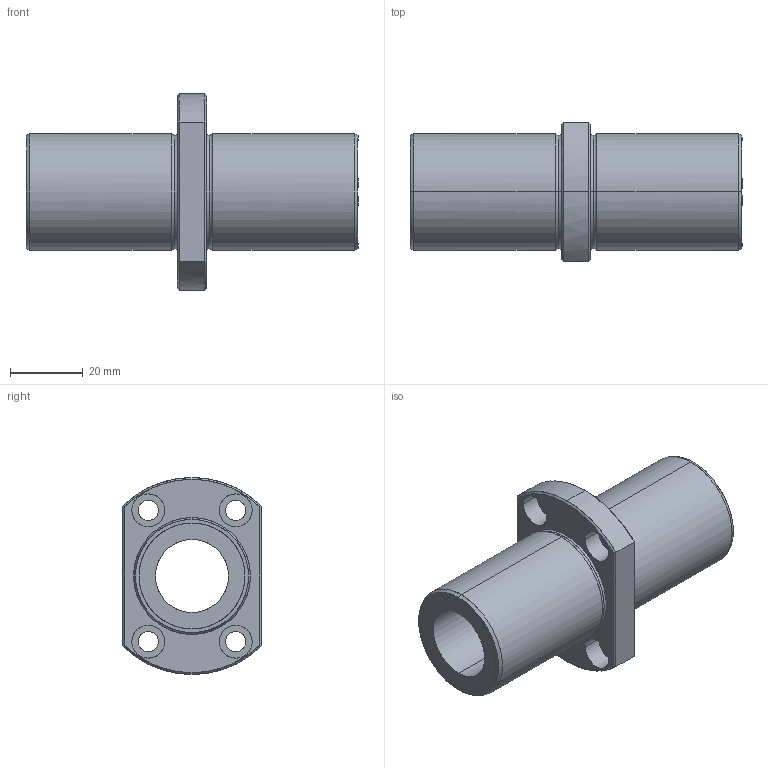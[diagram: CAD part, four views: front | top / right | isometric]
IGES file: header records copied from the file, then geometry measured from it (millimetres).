
Global section: file name: No Iges File Name specified; native system: AutoDesk Inventor R10; preprocessor: AutoDesk Inventor Iges Exporter R10; author: No Author specified; organization: No Organization specified; date: 20101216.154207; units: millimetre
Bounding box: 91 x 38 x 54 mm (x, y, z)
Surface area: 18949.6 mm2 (no closed solid volume)
Topology: 0 solids, 0 shells, 66 faces, 416 edges, 416 vertices
Faces by surface type: bspline 66
